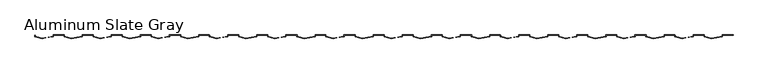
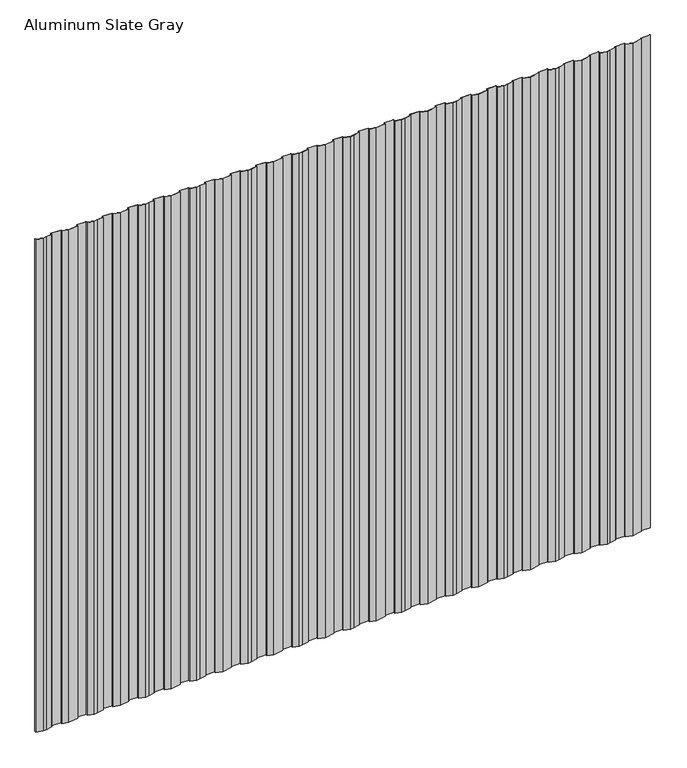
"""IFC4 building model written with IfcOpenShell, lengths in millimetres: proxy geometry, TitanTek VariPanel™ Angular CONVEX : Aluminum Slate Gray."""

from ifc_helpers import new_model, si_unit, origin, origin_with_axes, place, context, project, spatial, polyline, outline, extrude, source, transform, mapped, element, save


def aluminum_slate_gray_40f3fb9b(model_context):
    return source(origin(), model_context, "Body", "SweptSolid", [
        extrude(outline(polyline([(4652.3671875, -0.9921875), (4652.3671875, -11.1125), (4577.3816547, -24.9311945), (4528.5421875, -11.1346212), (4528.5421875, -0.9921875), (4454.525, -0.9921875), (4454.525, -11.1125), (4405.2373796, -20.1954596), (4379.5394672, -24.9311945), (4330.7, -11.1346212), (4330.7, -0.9921875), (4331.6921875, -0.9921875), (4331.6921875, -10.3838866), (4379.586859, -23.9135663), (4405.2847714, -19.1778314), (4453.5328125, -10.2864505), (4453.5328125, 0.0), (4529.534375, 0.0), (4529.534375, -10.3838866), (4577.4290465, -23.9135663), (4651.375, -10.2864505), (4651.375, 0.0), (4724.4, 0.0), (4724.4, -0.9921875), (4652.3671875, -0.9921875)])), origin_with_axes(), (0.0, 0.0, 1.0), 4000.0),
        extrude(outline(polyline([(4258.6671875, -0.9921875), (4258.6671875, -11.1125), (4183.6816547, -24.9311945), (4134.8421875, -11.1346212), (4134.8421875, -0.9921875), (4060.825, -0.9921875), (4060.825, -11.1125), (4011.5373796, -20.1954596), (3985.8394672, -24.9311945), (3937.0, -11.1346212), (3937.0, -0.9921875), (3937.9921875, -0.9921875), (3937.9921875, -10.3838866), (3985.886859, -23.9135663), (4011.5847714, -19.1778314), (4059.8328125, -10.2864505), (4059.8328125, 0.0), (4135.834375, 0.0), (4135.834375, -10.3838866), (4183.7290465, -23.9135663), (4257.675, -10.2864505), (4257.675, 0.0), (4330.7, 0.0), (4330.7, -0.9921875), (4258.6671875, -0.9921875)])), origin_with_axes(), (0.0, 0.0, 1.0), 4000.0),
        extrude(outline(polyline([(3864.9671875, -0.9921875), (3864.9671875, -11.1125), (3789.9816547, -24.9311945), (3741.1421875, -11.1346212), (3741.1421875, -0.9921875), (3667.125, -0.9921875), (3667.125, -11.1125), (3617.8373796, -20.1954596), (3592.1394672, -24.9311945), (3543.3, -11.1346212), (3543.3, -0.9921875), (3544.2921875, -0.9921875), (3544.2921875, -10.3838866), (3592.186859, -23.9135663), (3617.8847714, -19.1778314), (3666.1328125, -10.2864505), (3666.1328125, 0.0), (3742.134375, 0.0), (3742.134375, -10.3838866), (3790.0290465, -23.9135663), (3863.975, -10.2864505), (3863.975, 0.0), (3937.0, 0.0), (3937.0, -0.9921875), (3864.9671875, -0.9921875)])), origin_with_axes(), (0.0, 0.0, 1.0), 4000.0),
        extrude(outline(polyline([(3471.2671875, -0.9921875), (3471.2671875, -11.1125), (3396.2816547, -24.9311945), (3347.4421875, -11.1346212), (3347.4421875, -0.9921875), (3273.425, -0.9921875), (3273.425, -11.1125), (3224.1373796, -20.1954596), (3198.4394672, -24.9311945), (3149.6, -11.1346212), (3149.6, -0.9921875), (3150.5921875, -0.9921875), (3150.5921875, -10.3838866), (3198.486859, -23.9135663), (3224.1847714, -19.1778314), (3272.4328125, -10.2864505), (3272.4328125, 0.0), (3348.434375, 0.0), (3348.434375, -10.3838866), (3396.3290465, -23.9135663), (3470.275, -10.2864505), (3470.275, 0.0), (3543.3, 0.0), (3543.3, -0.9921875), (3471.2671875, -0.9921875)])), origin_with_axes(), (0.0, 0.0, 1.0), 4000.0),
        extrude(outline(polyline([(3077.5671875, -0.9921875), (3077.5671875, -11.1125), (3002.5816547, -24.9311945), (2953.7421875, -11.1346212), (2953.7421875, -0.9921875), (2879.725, -0.9921875), (2879.725, -11.1125), (2830.4373796, -20.1954596), (2804.7394672, -24.9311945), (2755.9, -11.1346212), (2755.9, -0.9921875), (2756.8921875, -0.9921875), (2756.8921875, -10.3838866), (2804.786859, -23.9135663), (2830.4847714, -19.1778314), (2878.7328125, -10.2864505), (2878.7328125, 0.0), (2954.734375, 0.0), (2954.734375, -10.3838866), (3002.6290465, -23.9135663), (3076.575, -10.2864505), (3076.575, 0.0), (3149.6, 0.0), (3149.6, -0.9921875), (3077.5671875, -0.9921875)])), origin_with_axes(), (0.0, 0.0, 1.0), 4000.0),
        extrude(outline(polyline([(2683.8671875, -0.9921875), (2683.8671875, -11.1125), (2608.8816547, -24.9311945), (2560.0421875, -11.1346212), (2560.0421875, -0.9921875), (2486.025, -0.9921875), (2486.025, -11.1125), (2436.7373796, -20.1954596), (2411.0394672, -24.9311945), (2362.2, -11.1346212), (2362.2, -0.9921875), (2363.1921875, -0.9921875), (2363.1921875, -10.3838866), (2411.086859, -23.9135663), (2436.7847714, -19.1778314), (2485.0328125, -10.2864505), (2485.0328125, 0.0), (2561.034375, 0.0), (2561.034375, -10.3838866), (2608.9290465, -23.9135663), (2682.875, -10.2864505), (2682.875, 0.0), (2755.9, 0.0), (2755.9, -0.9921875), (2683.8671875, -0.9921875)])), origin_with_axes(), (0.0, 0.0, 1.0), 4000.0),
        extrude(outline(polyline([(2290.1671875, -0.9921875), (2290.1671875, -11.1125), (2215.1816547, -24.9311945), (2166.3421875, -11.1346212), (2166.3421875, -0.9921875), (2092.325, -0.9921875), (2092.325, -11.1125), (2043.0373796, -20.1954596), (2017.3394672, -24.9311945), (1968.5, -11.1346212), (1968.5, -0.9921875), (1969.4921875, -0.9921875), (1969.4921875, -10.3838866), (2017.386859, -23.9135663), (2043.0847714, -19.1778314), (2091.3328125, -10.2864505), (2091.3328125, 0.0), (2167.334375, 0.0), (2167.334375, -10.3838866), (2215.2290465, -23.9135663), (2289.175, -10.2864505), (2289.175, 0.0), (2362.2, 0.0), (2362.2, -0.9921875), (2290.1671875, -0.9921875)])), origin_with_axes(), (0.0, 0.0, 1.0), 4000.0),
        extrude(outline(polyline([(1896.4671875, -0.9921875), (1896.4671875, -11.1125), (1821.4816547, -24.9311945), (1772.6421875, -11.1346212), (1772.6421875, -0.9921875), (1698.625, -0.9921875), (1698.625, -11.1125), (1649.3373796, -20.1954596), (1623.6394672, -24.9311945), (1574.8, -11.1346212), (1574.8, -0.9921875), (1575.7921875, -0.9921875), (1575.7921875, -10.3838866), (1623.686859, -23.9135663), (1649.3847714, -19.1778314), (1697.6328125, -10.2864505), (1697.6328125, 0.0), (1773.634375, 0.0), (1773.634375, -10.3838866), (1821.5290465, -23.9135663), (1895.475, -10.2864505), (1895.475, 0.0), (1968.5, 0.0), (1968.5, -0.9921875), (1896.4671875, -0.9921875)])), origin_with_axes(), (0.0, 0.0, 1.0), 4000.0),
        extrude(outline(polyline([(1502.7671875, -0.9921875), (1502.7671875, -11.1125), (1427.7816547, -24.9311945), (1378.9421875, -11.1346212), (1378.9421875, -0.9921875), (1304.925, -0.9921875), (1304.925, -11.1125), (1255.6373796, -20.1954596), (1229.9394672, -24.9311945), (1181.1, -11.1346212), (1181.1, -0.9921875), (1182.0921875, -0.9921875), (1182.0921875, -10.3838866), (1229.986859, -23.9135663), (1255.6847714, -19.1778314), (1303.9328125, -10.2864505), (1303.9328125, 0.0), (1379.934375, 0.0), (1379.934375, -10.3838866), (1427.8290465, -23.9135663), (1501.775, -10.2864505), (1501.775, 0.0), (1574.8, 0.0), (1574.8, -0.9921875), (1502.7671875, -0.9921875)])), origin_with_axes(), (0.0, 0.0, 1.0), 4000.0),
        extrude(outline(polyline([(1109.0671875, -0.9921875), (1109.0671875, -11.1125), (1034.0816547, -24.9311945), (985.2421875, -11.1346212), (985.2421875, -0.9921875), (911.225, -0.9921875), (911.225, -11.1125), (861.9373796, -20.1954596), (836.2394672, -24.9311945), (787.4, -11.1346212), (787.4, -0.9921875), (788.3921875, -0.9921875), (788.3921875, -10.3838866), (836.286859, -23.9135663), (861.9847714, -19.1778314), (910.2328125, -10.2864505), (910.2328125, 0.0), (986.234375, 0.0), (986.234375, -10.3838866), (1034.1290465, -23.9135663), (1108.075, -10.2864505), (1108.075, 0.0), (1181.1, 0.0), (1181.1, -0.9921875), (1109.0671875, -0.9921875)])), origin_with_axes(), (0.0, 0.0, 1.0), 4000.0),
        extrude(outline(polyline([(715.3671875, -0.9921875), (715.3671875, -11.1125), (640.3816547, -24.9311945), (591.5421875, -11.1346212), (591.5421875, -0.9921875), (517.525, -0.9921875), (517.525, -11.1125), (468.2373796, -20.1954596), (442.5394672, -24.9311945), (393.7, -11.1346212), (393.7, -0.9921875), (394.6921875, -0.9921875), (394.6921875, -10.3838866), (442.586859, -23.9135663), (468.2847714, -19.1778314), (516.5328125, -10.2864505), (516.5328125, 0.0), (592.534375, 0.0), (592.534375, -10.3838866), (640.4290465, -23.9135663), (714.375, -10.2864505), (714.375, 0.0), (787.4, 0.0), (787.4, -0.9921875), (715.3671875, -0.9921875)])), origin_with_axes(), (0.0, 0.0, 1.0), 4000.0),
        extrude(outline(polyline([(321.6671875, -0.9921875), (321.6671875, -11.1125), (246.6816547, -24.9311945), (197.8421875, -11.1346212), (197.8421875, -0.9921875), (123.825, -0.9921875), (123.825, -11.1125), (74.5373796, -20.1954596), (48.8394672, -24.9311945), (0.0, -11.1346212), (0.0, -0.9921875), (0.9921875, -0.9921875), (0.9921875, -10.3838866), (48.886859, -23.9135663), (74.5847714, -19.1778314), (122.8328125, -10.2864505), (122.8328125, 0.0), (198.834375, 0.0), (198.834375, -10.3838866), (246.7290465, -23.9135663), (320.675, -10.2864505), (320.675, 0.0), (393.7, 0.0), (393.7, -0.9921875), (321.6671875, -0.9921875)])), origin_with_axes(), (0.0, 0.0, 1.0), 4000.0),
    ])


if __name__ == "__main__":
    model = new_model("IFC4")
    model_context = context("Model", 3, world=origin())
    ifc_project = project(units=[si_unit("LENGTHUNIT", "METRE", prefix="MILLI")], contexts=[model_context])
    site = spatial("IfcSite", under=ifc_project)
    building = spatial("IfcBuilding", under=site)
    placement = place(None, origin())
    aluminum_slate_gray_shape = aluminum_slate_gray_40f3fb9b(model_context)
    element("IfcBuildingElementProxy", 1, Name="TitanTek VariPanel™ Angular CONVEX : Aluminum Slate Gray", ObjectType="TitanTek VariPanel™ Angular CONVEX : Aluminum Slate Gray", at=placement, inside=building, context=model_context, shape_type="MappedRepresentation", body=[
        mapped(aluminum_slate_gray_shape, transform((0.0, 0.0, 0.0), x_axis=(1.0, 0.0, 0.0), y_axis=(0.0, 1.0, 0.0), z_axis=(0.0, 0.0, 1.0))),
    ])
    save(model, "model.ifc")
